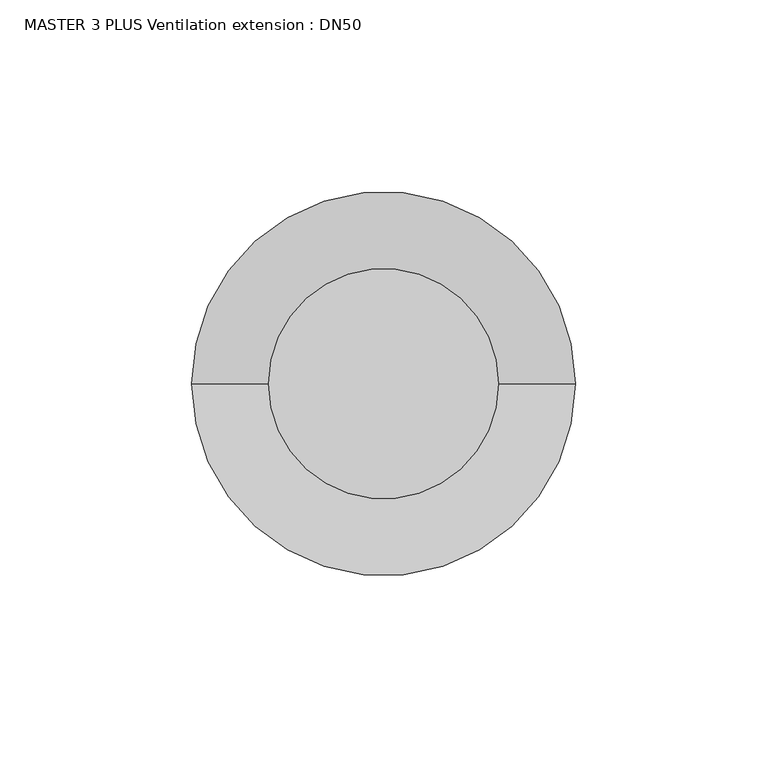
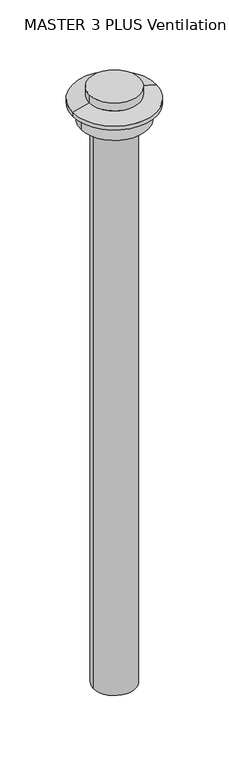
"""IFC4 building model written with IfcOpenShell, lengths in millimetres: valve geometry, MASTER 3 PLUS Ventilation extension : DN50."""

from ifc_helpers import new_model, si_unit, frame, origin, origin_with_axes, place, context, project, spatial, polyline, circle_curve, source, transform, mapped, element, save
from ifc_brep_helpers import plane_surface, cylinder_surface, revolved_surface, advanced_brep


def master_3_plus_ventilation_extension_dn50_5ed338e7(model_context):
    return source(origin(), model_context, "Body", "AdvancedBrep", [
        advanced_brep(
        [(30.0, 0.0, 750.0), (-30.0, 0.0, 750.0), (-25.0, 0.0, 0.0), (25.0, 0.0, 0.0), (25.0, 0.0, 709.8236191), (-25.0, 0.0, 709.8236191), (30.0, 0.0, 740.0), (-30.0, 0.0, 740.0), (50.0, 0.0, 734.8236191), (-50.0, 0.0, 734.8236191), (50.0, 0.0, 729.8236191), (-50.0, 0.0, 729.8236191), (40.0, 0.0, 729.8236191), (-40.0, 0.0, 729.8236191), (40.0, 0.0, 709.8236191), (-40.0, 0.0, 709.8236191)],
        [
            (0, 1, circle_curve(frame((0.0, 0.0, 750.0), z_axis=(0.0, 0.0, 1.0), x_axis=(-1.0, 0.0, 0.0)), 30.0)),
            (1, 0, circle_curve(frame((0.0, 0.0, 750.0), z_axis=(0.0, 0.0, 1.0), x_axis=(-1.0, 0.0, 0.0)), 30.0)),
            (2, 3, circle_curve(frame((0.0, 0.0, 0.0), z_axis=(0.0, 0.0, -1.0), x_axis=(1.0, 0.0, 0.0)), 25.0)),
            (3, 2, circle_curve(frame((0.0, 0.0, 0.0), z_axis=(0.0, 0.0, -1.0), x_axis=(1.0, 0.0, 0.0)), 25.0)),
            (3, 4),
            (4, 5, circle_curve(frame((0.0, 0.0, 709.8236191), z_axis=(0.0, 0.0, -1.0), x_axis=(1.0, 0.0, 0.0)), 25.0)),
            (5, 2),
            (5, 4, circle_curve(frame((0.0, 0.0, 709.8236191), z_axis=(0.0, 0.0, -1.0), x_axis=(1.0, 0.0, 0.0)), 25.0)),
            (6, 7, circle_curve(frame((0.0, 0.0, 740.0), z_axis=(0.0, 0.0, 1.0), x_axis=(-1.0, 0.0, 0.0)), 30.0)),
            (7, 1),
            (0, 6),
            (7, 6, circle_curve(frame((0.0, 0.0, 740.0), z_axis=(0.0, 0.0, 1.0), x_axis=(-1.0, 0.0, 0.0)), 30.0)),
            (6, 8),
            (8, 9, circle_curve(frame((0.0, 0.0, 734.8236191), z_axis=(0.0, 0.0, 1.0), x_axis=(-1.0, 0.0, 0.0)), 50.0)),
            (9, 7),
            (9, 8, circle_curve(frame((0.0, 0.0, 734.8236191), z_axis=(0.0, 0.0, 1.0), x_axis=(-1.0, 0.0, 0.0)), 50.0)),
            (8, 10),
            (10, 11, circle_curve(frame((0.0, 0.0, 729.8236191), z_axis=(0.0, 0.0, 1.0), x_axis=(-1.0, 0.0, 0.0)), 50.0)),
            (11, 9),
            (11, 10, circle_curve(frame((0.0, 0.0, 729.8236191), z_axis=(0.0, 0.0, 1.0), x_axis=(-1.0, 0.0, 0.0)), 50.0)),
            (10, 12),
            (12, 13, circle_curve(frame((0.0, 0.0, 729.8236191), z_axis=(0.0, 0.0, 1.0), x_axis=(-1.0, 0.0, 0.0)), 40.0)),
            (13, 11),
            (13, 12, circle_curve(frame((0.0, 0.0, 729.8236191), z_axis=(0.0, 0.0, 1.0), x_axis=(-1.0, 0.0, 0.0)), 40.0)),
            (12, 14),
            (14, 15, circle_curve(frame((0.0, 0.0, 709.8236191), z_axis=(0.0, 0.0, 1.0), x_axis=(-1.0, 0.0, 0.0)), 40.0)),
            (15, 13),
            (15, 14, circle_curve(frame((0.0, 0.0, 709.8236191), z_axis=(0.0, 0.0, 1.0), x_axis=(-1.0, 0.0, 0.0)), 40.0)),
            (14, 4),
            (5, 15),
        ],
        [
            plane_surface(frame((25.0, 0.0, 750.0), z_axis=(0.0, 0.0, 1.0), x_axis=(0.0, 1.0, 0.0))),
            plane_surface(frame((25.0, 0.0, 0.0), z_axis=(0.0, 0.0, -1.0), x_axis=(0.0, -1.0, 0.0))),
            cylinder_surface(origin_with_axes(), 25.0),
            cylinder_surface(frame((0.0, 0.0, 750.0), z_axis=(0.0, 0.0, -1.0), x_axis=(-1.0, 0.0, 0.0)), 30.0),
            revolved_surface(polyline([(-30.0, 0.0, 740.0), (-50.0, 0.0, 734.8236191)]), (0.0, 0.0, 750.0), (0.0, 0.0, -1.0)),
            cylinder_surface(frame((0.0, 0.0, 750.0), z_axis=(0.0, 0.0, -1.0), x_axis=(-1.0, 0.0, 0.0)), 50.0),
            plane_surface(frame((0.0, 0.0, 729.8236191), z_axis=(0.0, 0.0, -1.0), x_axis=(-1.0, 0.0, 0.0))),
            cylinder_surface(frame((0.0, 0.0, 750.0), z_axis=(0.0, 0.0, -1.0), x_axis=(-1.0, 0.0, 0.0)), 40.0),
            plane_surface(frame((0.0, 0.0, 709.8236191), z_axis=(0.0, 0.0, -1.0), x_axis=(-1.0, 0.0, 0.0))),
        ],
        [
            (0, [[1, 2]]),
            (1, [[3, 4]]),
            (2, [[-4, 5, 6, 7]]),
            (2, [[-3, -7, 8, -5]]),
            (3, [[9, 10, -1, 11]]),
            (3, [[-10, 12, -11, -2]]),
            (4, [[-9, 13, 14, 15]]),
            (4, [[-12, -15, 16, -13]]),
            (5, [[-14, 17, 18, 19]]),
            (5, [[-16, -19, 20, -17]]),
            (6, [[-18, 21, 22, 23]]),
            (6, [[-20, -23, 24, -21]]),
            (7, [[-22, 25, 26, 27]]),
            (7, [[-24, -27, 28, -25]]),
            (8, [[-26, 29, -8, 30]]),
            (8, [[-28, -30, -6, -29]]),
        ],
    ),
    ])


if __name__ == "__main__":
    model = new_model("IFC4")
    model_context = context("Model", 3, world=origin())
    ifc_project = project(units=[si_unit("LENGTHUNIT", "METRE", prefix="MILLI")], contexts=[model_context])
    site = spatial("IfcSite", under=ifc_project)
    building = spatial("IfcBuilding", under=site)
    placement = place(None, origin())
    master_3_plus_ventilation_extension_dn50_shape = master_3_plus_ventilation_extension_dn50_5ed338e7(model_context)
    element("IfcValve", 1, ObjectType="MASTER 3 PLUS Ventilation extension : DN50", at=placement, inside=building, context=model_context, shape_type="MappedRepresentation", body=[
        mapped(master_3_plus_ventilation_extension_dn50_shape, transform((0.0, 0.0, 0.0), x_axis=(1.0, 0.0, 0.0), y_axis=(0.0, 1.0, 0.0), z_axis=(0.0, 0.0, 1.0))),
    ])
    save(model, "model.ifc")
